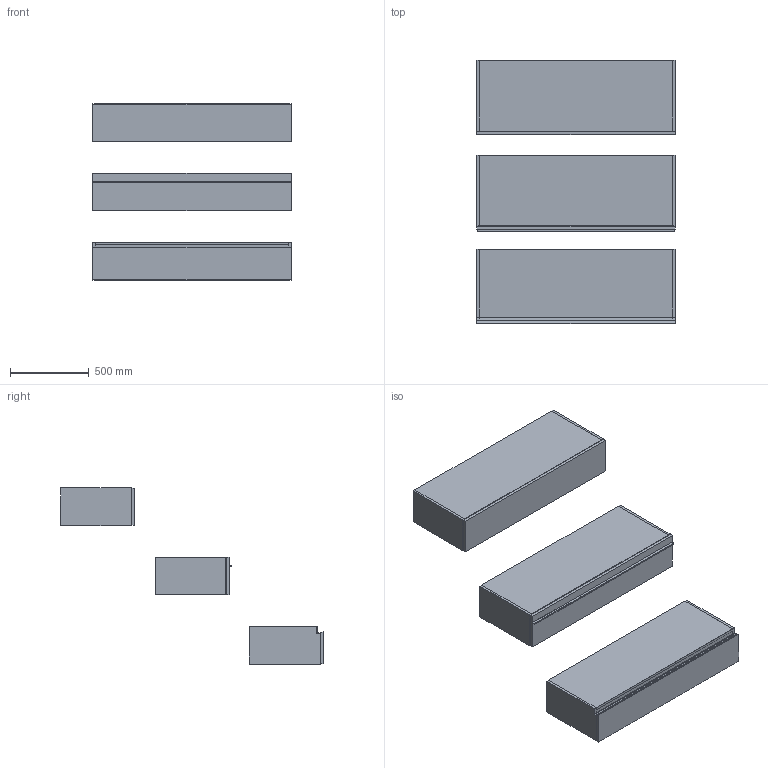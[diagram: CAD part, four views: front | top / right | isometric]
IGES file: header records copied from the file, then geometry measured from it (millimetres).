
Start section: Data from Parasolid IGES Translator 19.0.9, Copyright(c) 2006 Siemens PL M Software. All Rights Reserved.
Global section: file name: noorth-SI-H 24 D 47 W 126_8295.igs; native system: By Siemens PLM Incorporated; preprocessor: XPlus GENERIC/IGES 19.0.9; author: Noname; organization: Noname; date: 20200530.114304; units: metre
Bounding box: 1260.01 x 1669.1 x 1120 mm (x, y, z)
Volume: 81534535.8 mm3; surface area: 11969520.2 mm2
Topology: 20 solids, 20 shells, 178 faces, 382 edges, 234 vertices
Faces by surface type: plane 134, extrusion 16, bspline 16, cylinder 12
